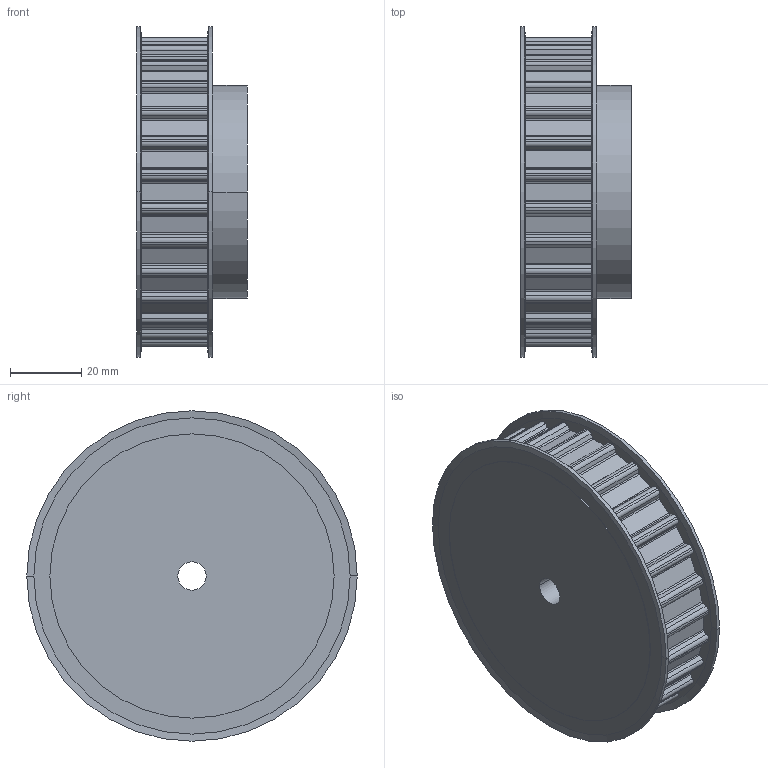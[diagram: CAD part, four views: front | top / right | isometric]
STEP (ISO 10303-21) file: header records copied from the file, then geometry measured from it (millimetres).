
FILE_DESCRIPTION( ( '' ), '1' );
FILE_NAME( 'C:/Users/Stangenbergd/Documents/CAD_Step/1/16822800.stp', '2021-10-19T09:44:10', ( '' ), ( '' ), ' ', ' ', ' ' );
FILE_SCHEMA( ( 'CONFIG_CONTROL_DESIGN' ) );
Length unit declared in the file: millimetre
Products named in the file (1): 1
Bounding box: 31.13 x 93 x 93 mm (x, y, z)
Volume: 145868 mm3; surface area: 25571.9 mm2
Topology: 1 solids, 1 shells, 251 faces, 724 edges, 480 vertices
Faces by surface type: cylinder 152, plane 91, cone 8
Entity records: 8414 total; most frequent: DIRECTION 1540, CARTESIAN_POINT 1456, ORIENTED_EDGE 1448, EDGE_CURVE 724, AXIS2_PLACEMENT_3D 564, VERTEX_POINT 480, LINE 412, VECTOR 412
